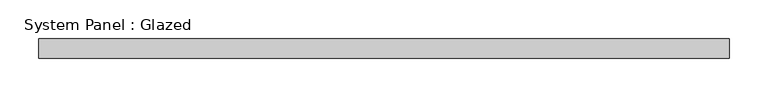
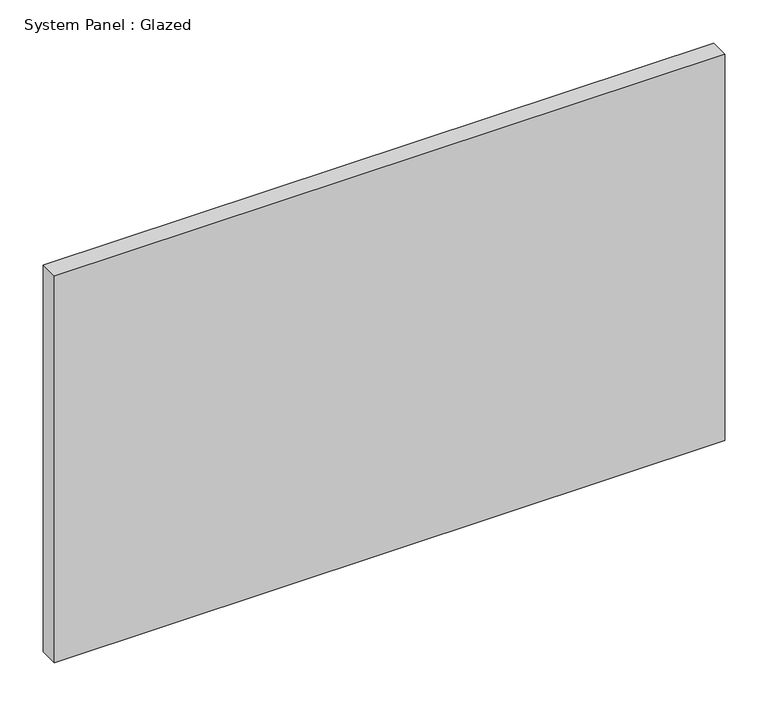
"""IFC4 building model written with IfcOpenShell, lengths in millimetres: plate geometry, System Panel : Glazed."""

import ifcopenshell
import ifcopenshell.guid

model = None  # the IFC model being written
_history = None  # IfcOwnerHistory: only IFC2X3 demands one
_inside = {}  # id of a spatial element -> (the spatial element, [elements in it])
_under = {}  # id of a project, library or spatial element -> (it, [spatial elements below it])
_declared = {}  # id of a project -> (the project, [libraries it declares])
_typed = {}  # id of a type object -> (the type object, [elements of that type])
_made_of = {}  # id of a material, layer set ... -> (it, [elements and type objects made of it])


def new_model(schema):
    """Start an empty IFC model of exactly this schema.

    Asked for "IFC4X3", IfcOpenShell would pick the latest addendum, in which some entities
    have other attributes; the version numbers below select the first issue.
    IFC2X3 requires an IfcOwnerHistory on every rooted entity: one is made here for all.
    """
    global model, _history
    if schema == "IFC4X3":
        model = ifcopenshell.file(schema_version=(4, 3, 0, 0))
    else:
        model = ifcopenshell.file(schema=schema)
    _inside.clear()
    _under.clear()
    _declared.clear()
    _typed.clear()
    _made_of.clear()
    _history = None
    if model.schema == "IFC2X3":
        org = make("IfcOrganization", Name="unknown")
        user = make(
            "IfcPersonAndOrganization",
            ThePerson=make("IfcPerson", FamilyName="unknown"),
            TheOrganization=org,
        )
        app = make(
            "IfcApplication",
            ApplicationDeveloper=org,
            Version="unknown",
            ApplicationFullName="unknown",
            ApplicationIdentifier="unknown",
        )
        _history = make(
            "IfcOwnerHistory",
            OwningUser=user,
            OwningApplication=app,
            ChangeAction="ADDED",
            CreationDate=0,
        )
    return model


def make(cls, **values):
    """One entity of the class cls with the attributes given. An attribute that is None is left unset."""
    return model.create_entity(
        cls, **{name: value for name, value in values.items() if value is not None}
    )


def rooted(cls, **values):
    """An entity with a GlobalId (a new one), such as an element, a storey or a relation."""
    return make(cls, GlobalId=ifcopenshell.guid.new(), OwnerHistory=_history, **values)


def si_unit(unit_type, name, prefix=None):
    """IfcSIUnit, for example si_unit("LENGTHUNIT", "METRE", prefix="MILLI")."""
    return make("IfcSIUnit", UnitType=unit_type, Prefix=prefix, Name=name)


def assignment(units):
    """IfcUnitAssignment: the units of a project."""
    return None if units is None else make("IfcUnitAssignment", Units=units)


def point(xyz):
    """IfcCartesianPoint."""
    return None if xyz is None else make("IfcCartesianPoint", Coordinates=xyz)


def direction(xyz):
    """IfcDirection."""
    return None if xyz is None else make("IfcDirection", DirectionRatios=xyz)


def frame(location, z_axis=None, x_axis=None):
    """IfcAxis2Placement3D, a coordinate frame: its origin and axes. An axis left out is left unset."""
    return make(
        "IfcAxis2Placement3D",
        Location=point(location),
        Axis=direction(z_axis),
        RefDirection=direction(x_axis),
    )


def origin():
    """The frame at (0, 0, 0) with its axes left unset."""
    return frame((0.0, 0.0, 0.0))


def origin_with_axes():
    """The frame at (0, 0, 0) with the z axis (0, 0, 1) and the x axis (1, 0, 0) written out."""
    return frame((0.0, 0.0, 0.0), z_axis=(0.0, 0.0, 1.0), x_axis=(1.0, 0.0, 0.0))


def place(relative_to, where):
    """IfcLocalPlacement: puts the frame where relative to a parent placement (None: the world)."""
    return make(
        "IfcLocalPlacement", PlacementRelTo=relative_to, RelativePlacement=where
    )


def context(
    kind, dimensions, precision=None, world=None, true_north=None, identifier=None
):
    """IfcGeometricRepresentationContext, for example the 3D "Model" context."""
    return make(
        "IfcGeometricRepresentationContext",
        ContextIdentifier=identifier,
        ContextType=kind,
        CoordinateSpaceDimension=dimensions,
        Precision=precision,
        WorldCoordinateSystem=world,
        TrueNorth=true_north,
    )


def project(units=None, contexts=None):
    """IfcProject with its units and contexts."""
    return rooted(
        "IfcProject",
        Name="project",
        RepresentationContexts=contexts,
        UnitsInContext=assignment(units),
    )


def spatial(cls, under=None, at=None, **own):
    """A site, building, storey or space (cls), placed at a placement, below another one or the project."""
    s = rooted(cls, ObjectPlacement=at, **own)
    if under is not None:
        _under.setdefault(under.id(), (under, []))[1].append(s)
    return s


def polyline(points):
    """IfcPolyline through the points."""
    return make("IfcPolyline", Points=[point(p) for p in points])


def outline(outer, holes=None, kind="AREA"):
    """IfcArbitraryClosedProfileDef: a profile drawn as a closed curve; with holes, ...WithVoids."""
    if holes is None:
        return make("IfcArbitraryClosedProfileDef", ProfileType=kind, OuterCurve=outer)
    return make(
        "IfcArbitraryProfileDefWithVoids",
        ProfileType=kind,
        OuterCurve=outer,
        InnerCurves=holes,
    )


def extrude(swept, where, along, depth):
    """IfcExtrudedAreaSolid: the profile swept, set in the frame where, extruded along a direction by depth."""
    return make(
        "IfcExtrudedAreaSolid",
        SweptArea=swept,
        Position=where,
        ExtrudedDirection=direction(along),
        Depth=depth,
    )


def shape(context_of_items, identifier, shape_type, items):
    """IfcShapeRepresentation: the items that make up one representation, for example the "Body"."""
    return make(
        "IfcShapeRepresentation",
        ContextOfItems=context_of_items,
        RepresentationIdentifier=identifier,
        RepresentationType=shape_type,
        Items=items,
    )


def source(mapping_origin, context_of_items, identifier, shape_type, items):
    """IfcRepresentationMap: a shape defined once, which mapped items show again and again."""
    return make(
        "IfcRepresentationMap",
        MappingOrigin=mapping_origin,
        MappedRepresentation=shape(context_of_items, identifier, shape_type, items),
    )


def transform(
    local_origin,
    x_axis=None,
    y_axis=None,
    z_axis=None,
    scale=None,
    scale2=None,
    scale3=None,
    uniform=True,
):
    """IfcCartesianTransformationOperator3D, or its non-uniform kind. x_axis, y_axis, z_axis: its Axis1, 2, 3."""
    if uniform:
        return make(
            "IfcCartesianTransformationOperator3D",
            Axis1=direction(x_axis),
            Axis2=direction(y_axis),
            LocalOrigin=point(local_origin),
            Scale=scale,
            Axis3=direction(z_axis),
        )
    return make(
        "IfcCartesianTransformationOperator3DnonUniform",
        Axis1=direction(x_axis),
        Axis2=direction(y_axis),
        LocalOrigin=point(local_origin),
        Scale=scale,
        Axis3=direction(z_axis),
        Scale2=scale2,
        Scale3=scale3,
    )


def mapped(mapping_source, mapping_target):
    """IfcMappedItem: shows the shape of a source again, moved by a transform."""
    return make(
        "IfcMappedItem", MappingSource=mapping_source, MappingTarget=mapping_target
    )


def made_of(thing, what):
    """Note that an element or type object is made of a material, layer set ...; save() writes the relation."""
    if what is not None:
        _made_of.setdefault(what.id(), (what, []))[1].append(thing)
    return thing


def element(
    cls,
    number,
    at=None,
    inside=None,
    cuts=None,
    type_object=None,
    material=None,
    context=None,
    identifier="Body",
    shape_type=None,
    held_by="IfcProductDefinitionShape",
    body=None,
    shapes=None,
    **own,
):
    """One element of the class cls, such as IfcWall. Its Tag is "e" and its number.

    at: its placement. inside: the storey or other place that contains it. cuts: it is an
    opening in that element (IfcRelVoidsElement). A single representation is given by context,
    identifier, shape_type and body (its items); several are given by shapes. held_by: the class
    of the entity that holds the representations. save() writes the other relations.
    """
    e = rooted(cls, Tag="e%d" % number, ObjectPlacement=at, **own)
    if body is not None:
        shapes = [shape(context, identifier, shape_type, body)]
    if shapes is not None:
        e.Representation = make(held_by, Representations=shapes)
    if inside is not None:
        _inside.setdefault(inside.id(), (inside, []))[1].append(e)
    if cuts is not None:
        rooted(
            "IfcRelVoidsElement", RelatingBuildingElement=cuts, RelatedOpeningElement=e
        )
    if type_object is not None:
        _typed.setdefault(type_object.id(), (type_object, []))[1].append(e)
    return made_of(e, material)


def aggregate(whole, parts):
    """IfcRelAggregates: a whole, such as a stair, and the parts it consists of."""
    return rooted("IfcRelAggregates", RelatingObject=whole, RelatedObjects=parts)


def save(model, path):
    """Write the relations noted so far, then the file.

    IfcRelAggregates (storeys below a building ...), IfcRelContainedInSpatialStructure (elements
    in a storey), IfcRelDefinesByType, IfcRelAssociatesMaterial and IfcRelDeclares: one each for
    every whole, place, type object, material and project.
    """
    for whole, parts in _under.values():
        aggregate(whole, parts)
    for where, things in _inside.values():
        rooted(
            "IfcRelContainedInSpatialStructure",
            RelatedElements=things,
            RelatingStructure=where,
        )
    for kind, things in _typed.values():
        rooted("IfcRelDefinesByType", RelatedObjects=things, RelatingType=kind)
    for what, things in _made_of.values():
        rooted("IfcRelAssociatesMaterial", RelatedObjects=things, RelatingMaterial=what)
    for by, libraries in _declared.values():
        rooted("IfcRelDeclares", RelatingContext=by, RelatedDefinitions=libraries)
    model.write(path)


def system_panel_glazed_f681b886(model_context):
    return source(origin(), model_context, "Body", "SweptSolid", [
        extrude(outline(polyline([(447.675, -44.45), (-447.675, -44.45), (-447.675, -19.05), (447.675, -19.05), (447.675, -44.45)])), origin_with_axes(), (0.0, 0.0, 1.0), 546.1),
    ])


if __name__ == "__main__":
    model = new_model("IFC4")
    model_context = context("Model", 3, world=origin())
    ifc_project = project(units=[si_unit("LENGTHUNIT", "METRE", prefix="MILLI")], contexts=[model_context])
    site = spatial("IfcSite", under=ifc_project)
    building = spatial("IfcBuilding", under=site)
    placement = place(None, origin())
    system_panel_glazed_shape = system_panel_glazed_f681b886(model_context)
    element("IfcPlate", 1, ObjectType="System Panel : Glazed", at=placement, inside=building, context=model_context, shape_type="MappedRepresentation", body=[
        mapped(system_panel_glazed_shape, transform((0.0, 0.0, 0.0), x_axis=(1.0, 0.0, 0.0), y_axis=(0.0, 1.0, 0.0), z_axis=(0.0, 0.0, 1.0))),
    ])
    save(model, "model.ifc")
